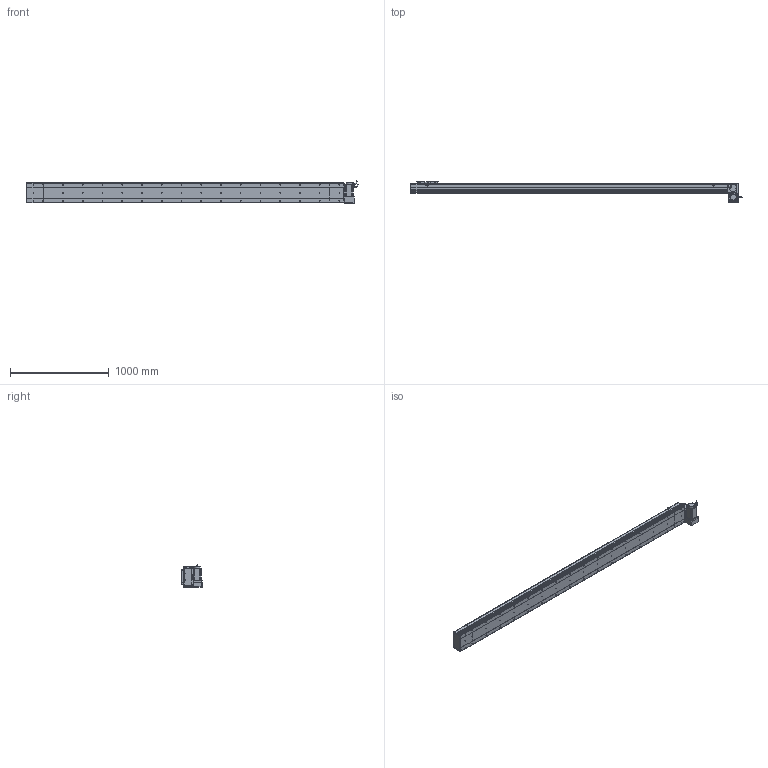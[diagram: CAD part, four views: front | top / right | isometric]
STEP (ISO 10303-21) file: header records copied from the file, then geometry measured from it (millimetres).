
FILE_DESCRIPTION (( 'STEP AP214' ), '1' );
FILE_NAME ('D20 CBH RU S2900.STEP', '2010-06-30T10:32:13', ( 'Conseil Régional Haute-Normandie' ), ( 'Conseil Régional Haute-Normandie' ), 'SwSTEP 2.0', 'SolidWorks 2010', '' );
FILE_SCHEMA (( 'AUTOMOTIVE_DESIGN' ));
Length unit declared in the file: millimetre
Products named in the file (31): ecrou_Default; vis M5 L15_Default; Plaque De Serrage D20_Default; Plaque de Bout Tail D20_Default; Couvercle_Default; Corp Tail D20+100_Default; Tail D20+100_Default; Couvercle S2900_Default; Chariot D20_Default; Support Chariot D20_Default; Corp S2900_Default; Corp D20 S2900_Default; Glissiere_Default; vis M5 L47_Default; D20 CBH RU S2900; Support moteur RU_Default; Plaque de Bout Head D20 RU_Default; Head RU_Default; Plaque De Serrage D20 RU_Default; Couvercle RU_Default; Corp Tail D20 RU_Default; Moteur motionking 90BLDC125A-640; Rondelle Cache D20 RU_Default; Cache Support Moteur RU_Default; codeur 90BLDC125-640; corps 90BLDC125A-640; avant 90BLDC125A-640; vis M5 L30_Default; Conecteur_Default; Conecteur2_Default
Assembly tree (66 placements, depth 4):
  D20 CBH RU S2900
    Corp D20 S2900_Default
      Corp S2900_Default
      Couvercle S2900_Default
    Chariot D20_Default
      vis M5 L15_Default  x8
      Support Chariot D20_Default
      Glissiere_Default
      Chariot D20_Default
    Tail D20+100_Default
      vis M5 L15_Default  x6
      Plaque De Serrage D20_Default
      Plaque de Bout Tail D20_Default
      Couvercle_Default
      Corp Tail D20+100_Default
    Head RU_Default
      vis M5 L15_Default  x12
      Rondelle Cache D20 RU_Default  x3
      Cache Support Moteur RU_Default
      vis M5 L30_Default  x4
      Plaque De Serrage D20 RU_Default
      Corp Tail D20 RU_Default
      Moteur motionking 90BLDC125A-640
        codeur 90BLDC125-640
        corps 90BLDC125A-640
        avant 90BLDC125A-640
        Conecteur_Default
        Conecteur2_Default
      ecrou_Default  x4
      Support moteur RU_Default
      vis M5 L47_Default  x4
      Couvercle RU_Default
      Plaque de Bout Head D20 RU_Default
Bounding box: 3364.45 x 209 x 229.7 mm (x, y, z)
Volume: 22608822.3 mm3; surface area: 4353093.5 mm2
Topology: 103 solids, 103 shells, 3817 faces, 9506 edges, 6178 vertices
Faces by surface type: plane 2114, bspline 806, cylinder 734, torus 91, cone 68, sphere 4
Entity records: 160774 total; most frequent: CARTESIAN_POINT 82539, ORIENTED_EDGE 15480, DIRECTION 11874, EDGE_CURVE 7740, VERTEX_POINT 5122, LINE 4984, VECTOR 4984, AXIS2_PLACEMENT_3D 3445
